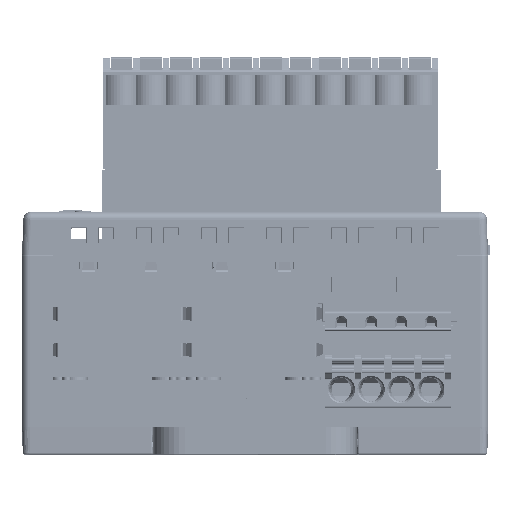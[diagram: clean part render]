
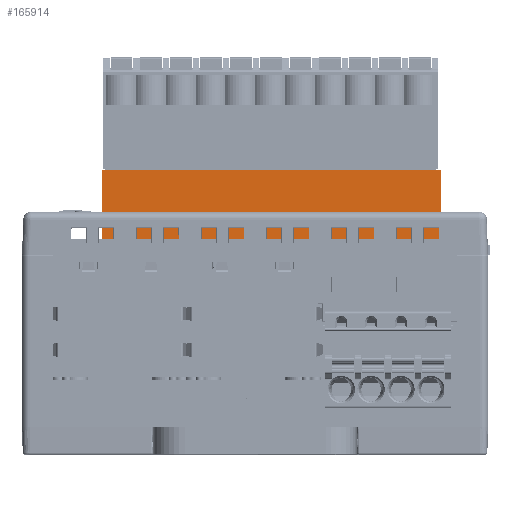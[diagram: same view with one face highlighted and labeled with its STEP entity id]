
A CAD part, front view. The second image highlights one B-rep face of the part: STEP entity #165914.
In plain terms, the highlighted planar face has unit normal (0, -1, 0).
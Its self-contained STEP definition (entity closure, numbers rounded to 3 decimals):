
#43314=DIRECTION('',(1.,0.,0.));
#43315=VECTOR('',#43314,43.3);
#43316=CARTESIAN_POINT('',(-19.55,-19.15,27.5));
#43317=LINE('',#43316,#43315);
#45750=DIRECTION('',(0.,0.,-1.));
#45751=VECTOR('',#45750,8.8);
#45752=CARTESIAN_POINT('',(23.75,-19.15,36.3));
#45753=LINE('',#45752,#45751);
#45758=DIRECTION('',(0.,0.,-1.));
#45759=VECTOR('',#45758,8.8);
#45760=CARTESIAN_POINT('',(-19.55,-19.15,36.3));
#45761=LINE('',#45760,#45759);
#45762=DIRECTION('',(-1.,0.,0.));
#45763=VECTOR('',#45762,43.3);
#45764=CARTESIAN_POINT('',(23.75,-19.15,36.3));
#45765=LINE('',#45764,#45763);
#60543=CARTESIAN_POINT('',(-19.55,-19.15,36.3));
#60545=VERTEX_POINT('',#60543);
#60549=CARTESIAN_POINT('',(23.75,-19.15,36.3));
#60550=VERTEX_POINT('',#60549);
#75730=CARTESIAN_POINT('',(-19.55,-19.15,27.5));
#75732=VERTEX_POINT('',#75730);
#75733=CARTESIAN_POINT('',(23.75,-19.15,27.5));
#75734=VERTEX_POINT('',#75733);
#165902=CARTESIAN_POINT('',(2.1,-19.15,31.7));
#165903=DIRECTION('',(0.,1.,0.));
#165904=DIRECTION('',(1.,0.,0.));
#165905=AXIS2_PLACEMENT_3D('',#165902,#165903,#165904);
#165906=PLANE('',#165905);
#165907=ORIENTED_EDGE('',*,*,#162059,.F.);
#165908=ORIENTED_EDGE('',*,*,#165848,.F.);
#165910=ORIENTED_EDGE('',*,*,#165909,.F.);
#165911=ORIENTED_EDGE('',*,*,#165887,.T.);
#165912=EDGE_LOOP('',(#165907,#165908,#165910,#165911));
#165913=FACE_OUTER_BOUND('',#165912,.F.);
#165914=ADVANCED_FACE('',(#165913),#165906,.F.);
#162059=EDGE_CURVE('',#75732,#75734,#43317,.T.);
#165848=EDGE_CURVE('',#60545,#75732,#45761,.T.);
#165887=EDGE_CURVE('',#60550,#75734,#45753,.T.);
#165909=EDGE_CURVE('',#60550,#60545,#45765,.T.);
